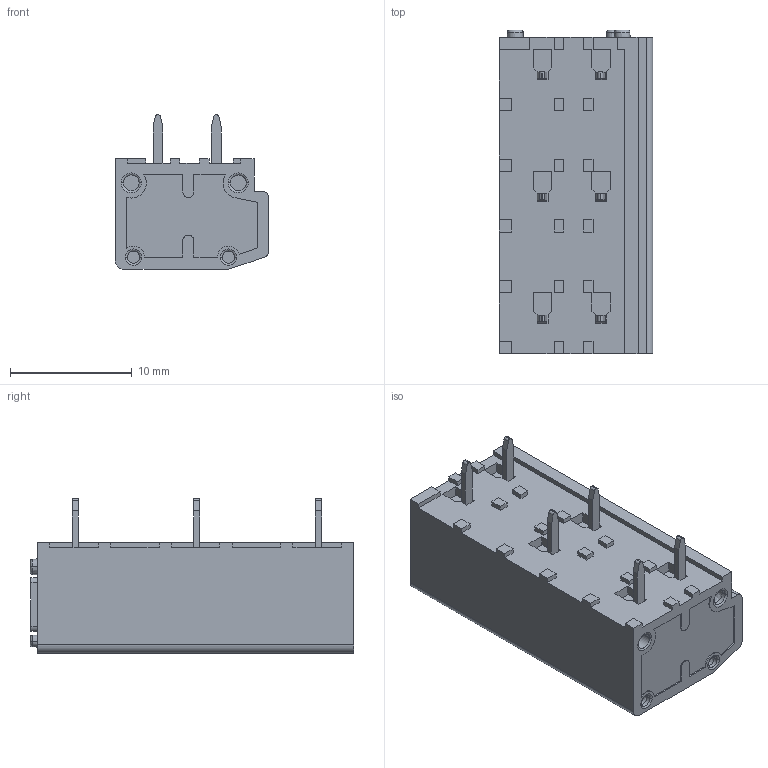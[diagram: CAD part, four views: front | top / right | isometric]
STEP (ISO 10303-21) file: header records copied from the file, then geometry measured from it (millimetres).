
FILE_DESCRIPTION((''),'2;1');
FILE_NAME('3','2019-04-15T',('zhenbing.lai'),(''),'CREO PARAMETRIC BY PTC INC, 2016260','CREO PARAMETRIC BY PTC INC, 2016260','');
FILE_SCHEMA(('CONFIG_CONTROL_DESIGN'));
Length unit declared in the file: millimetre
Products named in the file (1): 3
Bounding box: 12.6 x 26.6 x 12.7 mm (x, y, z)
Volume: 2519.5 mm3; surface area: 2077 mm2
Topology: 1 solids, 25 shells, 640 faces, 1707 edges, 1137 vertices
Faces by surface type: plane 424, cylinder 114, torus 58, bspline 44
Entity records: 21447 total; most frequent: CARTESIAN_POINT 5303, ORIENTED_EDGE 3414, DIRECTION 3309, EDGE_CURVE 1707, VERTEX_POINT 1137, AXIS2_PLACEMENT_3D 1113, VECTOR 1083, LINE 1083
